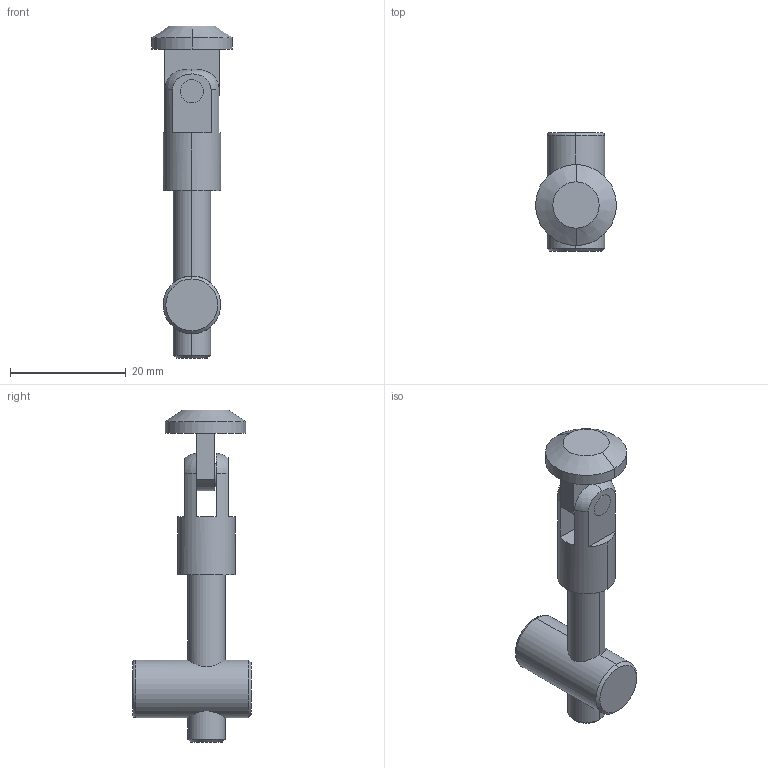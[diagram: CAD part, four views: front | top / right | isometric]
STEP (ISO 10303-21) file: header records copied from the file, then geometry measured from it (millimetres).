
FILE_DESCRIPTION (( 'STEP AP203' ), '1' );
FILE_NAME ('5122.STEP', '2016-10-02T15:28:50', ( '' ), ( '' ), 'SwSTEP 2.0', 'SolidWorks 2014', '' );
FILE_SCHEMA (( 'CONFIG_CONTROL_DESIGN' ));
Length unit declared in the file: millimetre
Products named in the file (5): 5122; 33; 44; 22 (1); shapka
Assembly tree (4 placements, depth 2):
  5122
    22 (1)
    33
    44
    shapka
Bounding box: 14 x 20.5 x 57.49 mm (x, y, z)
Volume: 4161.9 mm3; surface area: 3537.7 mm2
Topology: 5 solids, 5 shells, 75 faces, 169 edges, 104 vertices
Faces by surface type: plane 30, cylinder 25, torus 12, cone 8
Entity records: 2978 total; most frequent: CARTESIAN_POINT 793, DIRECTION 365, ORIENTED_EDGE 338, EDGE_CURVE 169, AXIS2_PLACEMENT_3D 144, VERTEX_POINT 104, EDGE_LOOP 79, LINE 77
